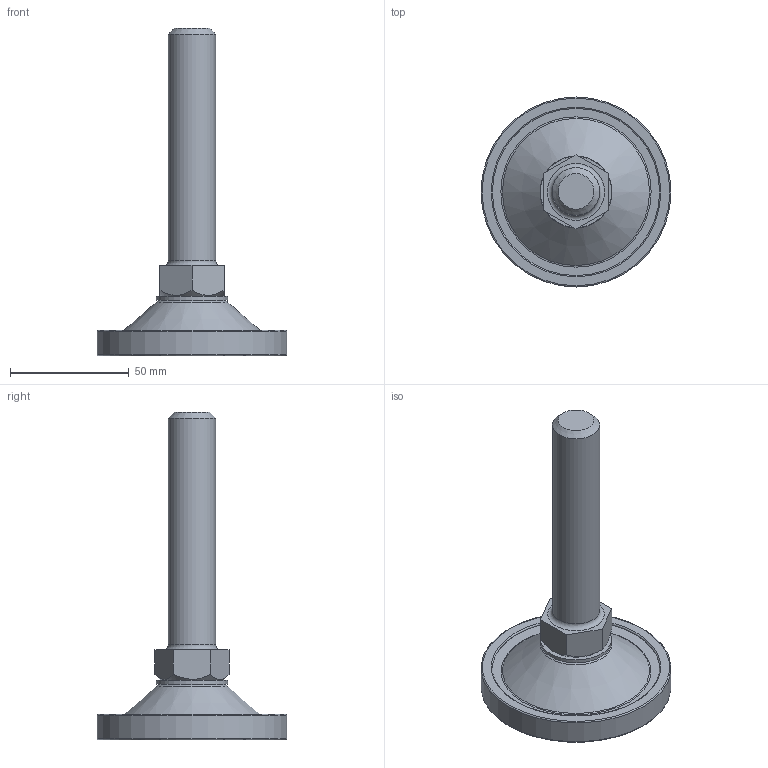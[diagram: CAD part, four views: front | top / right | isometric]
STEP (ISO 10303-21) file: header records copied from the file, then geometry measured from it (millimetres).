
FILE_DESCRIPTION(/* description */ (''),/* implementation_level */ '2;1');
FILE_NAME(/* name */ 'D:\조절자\PFR\PFR-M20-100L.stp',/* time_stamp */ '2016-03-14T15:08:14+09:00',/* author */ ('GS-DT-1-001'),/* organization */ (''),/* preprocessor_version */ 'ST-DEVELOPER v15.6',/* originating_system */ 'Autodesk Inventor LT ',/* authorisation */ '');
FILE_SCHEMA (('AUTOMOTIVE_DESIGN { 1 0 10303 214 3 1 1 }'));
Length unit declared in the file: millimetre
Products named in the file (1): PFR-M20-100L
Bounding box: 80 x 80 x 138 mm (x, y, z)
Volume: 84333.9 mm3; surface area: 36173.6 mm2
Topology: 4 solids, 4 shells, 71 faces, 134 edges, 82 vertices
Faces by surface type: plane 25, torus 24, cone 13, cylinder 9
Full cylindrical faces by diameter (mm): 5 x1, 7.153 x1, 8.2 x1, 8.8 x1, 20 x1, 30 x1, 74 x1, 74.4 x1, 80 x1
Entity records: 1509 total; most frequent: DIRECTION 282, CARTESIAN_POINT 240, ORIENTED_EDGE 162, AXIS2_PLACEMENT_3D 135, EDGE_LOOP 134, EDGE_CURVE 81, VERTEX_POINT 75, FACE_OUTER_BOUND 71
